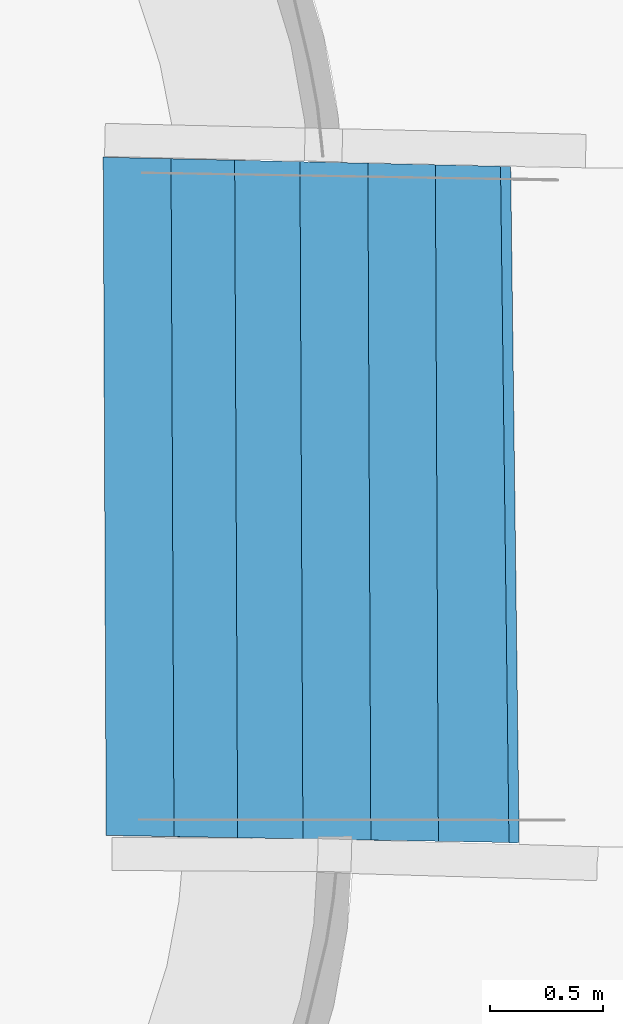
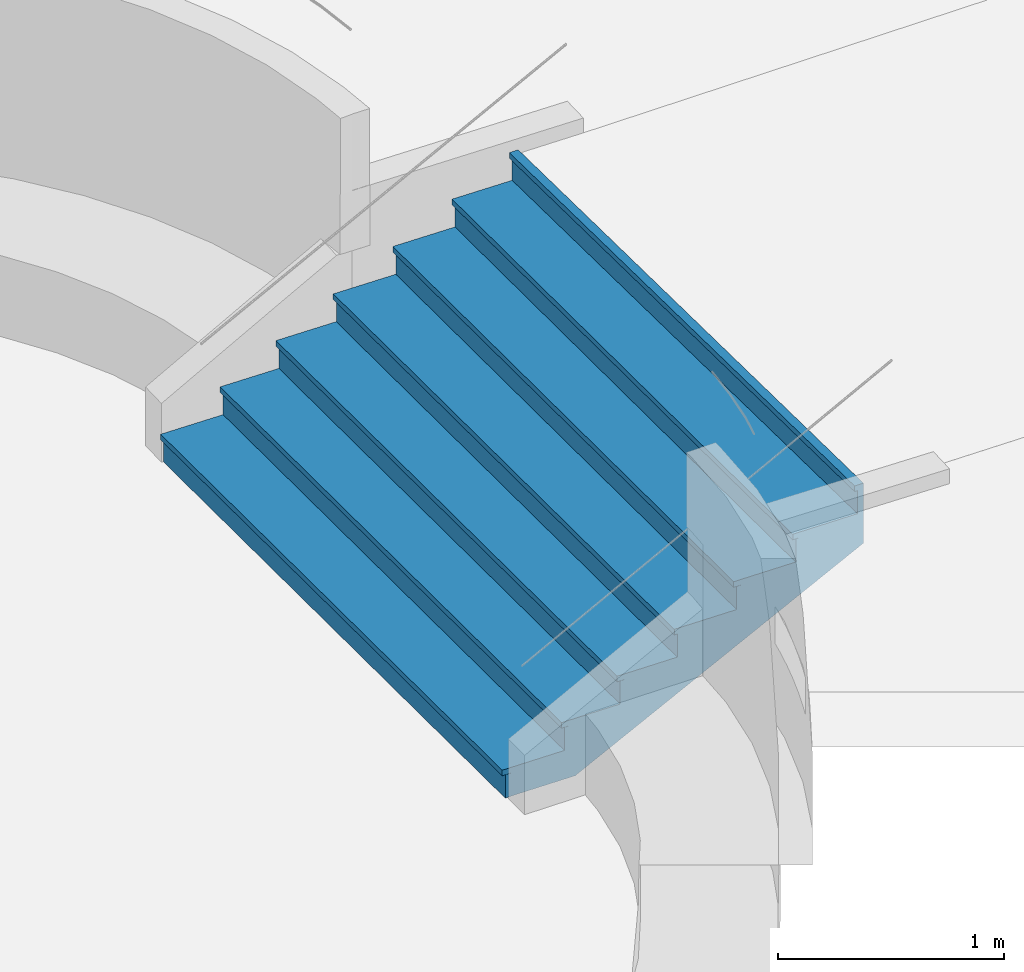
# One storey, part 114 of 133: 1 stair flight, 1 element without a shape of its own.
"""IFC2X3 building model written with IfcOpenShell, lengths in centimetres."""

from ifc_helpers import new_model, entity, si_unit, converted_unit, direction, frame, origin, origin_with_axes, place, context, subcontext, project, spatial, faceted_brep, material, element, aggregate, save


model = new_model("IFC2X3")

# Units and contexts
model_context = context("Model", 3, precision=0.0001, world=origin(), true_north=direction((0.225632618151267, 0.974212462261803, 0.0)))
body_context = subcontext(model_context, "Body", "Model", "MODEL_VIEW")
ifc_project = project(units=[si_unit("LENGTHUNIT", "METRE", prefix="CENTI"), si_unit("AREAUNIT", "SQUARE_METRE", prefix="CENTI"), si_unit("VOLUMEUNIT", "CUBIC_METRE", prefix="CENTI"), converted_unit("PLANEANGLEUNIT", "DEGREE", entity("IfcRatioMeasure", 0.0174532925), si_unit("PLANEANGLEUNIT", "RADIAN"), dimensions=[0, 0, 0, 0, 0, 0, 0])], contexts=[model_context])

# Site, building, storey
site_placement = place(None, origin_with_axes())
site = spatial("IfcSite", under=ifc_project, at=site_placement, Name="Default Site", CompositionType="ELEMENT")
building_placement = place(site_placement, origin_with_axes())
building = spatial("IfcBuilding", under=site, at=building_placement, Name="Default Building", CompositionType="ELEMENT")
storey_placement = place(building_placement, frame((0.0, 0.0, -291.400371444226), z_axis=(0.0, 0.0, 1.0), x_axis=(1.0, 0.0, 0.0)))
storey = spatial("IfcBuildingStorey", under=building, at=storey_placement, Name="Rez-de-Jardin", CompositionType="ELEMENT", Elevation=-291.400371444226)

# Stair, stair flight
stair_placement = place(storey_placement, frame((1561.36545780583, -1509.4975115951, 0.0), z_axis=(0.0, 0.0, 1.0), x_axis=(1.0, 0.0, 0.0)))
stair = element("IfcStair", 1, at=stair_placement, inside=storey, Name="Escalier 294723", ShapeType="NOTDEFINED")
ifc_material = material(Name="Gris béton")
stair_flight_placement = place(stair_placement, frame((-0.658746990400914, 149.998533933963, 12.5156506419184), z_axis=(0.0, 0.0, 1.0), x_axis=(0.999990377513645, 0.00438689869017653, 0.0)))
stair_flight = element("IfcStairFlight", 2, at=stair_flight_placement, material=ifc_material, Name="4294967291", context=body_context, shape_type="Brep", body=[
    faceted_brep([(-3.00000216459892, 1.77635683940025e-13, -12.515640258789), (0.0, 0.0, -12.515640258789), (0.00143133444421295, -300.000032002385, -12.515640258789), (-2.99857083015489, -300.000032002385, -12.515640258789), (0.0, 0.0, 4.44089209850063e-14), (-3.00000216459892, 1.77635683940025e-13, 4.44089209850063e-14), (-2.99857083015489, -300.000032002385, 4.44089209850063e-14), (0.00143133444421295, -300.000032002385, 4.44089209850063e-14), (-2.99857081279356, -300.000032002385, -12.515640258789), (-3.00000218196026, 9.4801782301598e-14, 4.44089209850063e-14), (-3.00000216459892, 6.27009536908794e-10, -12.515640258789), (-1.31009765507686e-19, -6.26831901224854e-10, 4.44089209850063e-14), (-1.7361153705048e-08, -8.28330534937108e-14, -12.515640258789), (0.00143135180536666, -300.000032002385, 4.44089209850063e-14), (0.00143133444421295, -300.000032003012, -12.515640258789), (-2.99857083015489, -300.000032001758, 4.44089209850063e-14)], [[[0, 1, 2]], [[2, 3, 0]], [[4, 5, 6]], [[6, 7, 4]], [[5, 0, 8]], [[3, 6, 9]], [[4, 1, 10]], [[0, 5, 11]], [[7, 2, 12]], [[1, 4, 13]], [[6, 3, 14]], [[2, 7, 15]]]),
    faceted_brep([(26.9999479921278, -0.820644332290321, 2.9999971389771), (29.9999505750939, -0.820548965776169, 2.9999971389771), (30.0014172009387, -300.660362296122, 2.9999971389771), (27.0014150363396, -300.660362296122, 2.9999971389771), (29.9999505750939, -0.820548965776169, 15.5156612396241), (26.9999479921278, -0.820644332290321, 15.5156612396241), (27.0014150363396, -300.660362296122, 15.5156612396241), (30.0014172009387, -300.660362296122, 15.5156612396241), (27.0014150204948, -300.660362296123, 2.9999971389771), (26.9999480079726, -0.820644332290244, 15.5156612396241), (26.9999479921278, -0.82064433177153, 2.9999971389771), (29.999950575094, -0.82054896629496, 15.5156612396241), (29.9999505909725, -0.820548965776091, 2.9999971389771), (30.0014171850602, -300.660362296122, 15.5156612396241), (30.0014172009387, -300.660362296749, 2.9999971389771), (27.0014150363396, -300.660362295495, 15.5156612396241)], [[[0, 1, 2]], [[2, 3, 0]], [[4, 5, 6]], [[6, 7, 4]], [[5, 0, 8]], [[3, 6, 9]], [[4, 1, 10]], [[0, 5, 11]], [[7, 2, 12]], [[1, 4, 13]], [[6, 3, 14]], [[2, 7, 15]]]),
    faceted_brep([(55.1420597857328, -1.59041341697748, 18.5156583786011), (58.1421573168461, -1.59041383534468, 18.5156583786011), (58.1435211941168, -301.27973545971, 18.5156583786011), (55.1436143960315, -301.279735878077, 18.5156583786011), (58.1421573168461, -1.59041383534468, 31.0312986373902), (55.1420597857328, -1.59041341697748, 31.0312986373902), (55.1436143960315, -301.279735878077, 31.0312986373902), (58.1435211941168, -301.27973545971, 31.0312986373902), (55.1436144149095, -301.279735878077, 18.5156583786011), (55.1420597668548, -1.59041341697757, 31.0312986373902), (55.1420597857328, -1.59041341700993, 18.5156583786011), (58.1421573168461, -1.59041383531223, 31.0312986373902), (58.1421573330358, -1.59041383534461, 18.5156583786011), (58.1435211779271, -301.27973545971, 31.0312986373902), (58.1435211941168, -301.279735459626, 18.5156583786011), (55.1436143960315, -301.279735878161, 31.0312986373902)], [[[0, 1, 2]], [[2, 3, 0]], [[4, 5, 6]], [[6, 7, 4]], [[5, 0, 8]], [[3, 6, 9]], [[4, 1, 10]], [[0, 5, 11]], [[7, 2, 12]], [[1, 4, 13]], [[6, 3, 14]], [[2, 7, 15]]]),
    faceted_brep([(84.0228061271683, -2.38039841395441, 34.0313196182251), (87.0229036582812, -2.3803988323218, 34.0313196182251), (87.0243718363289, -301.915510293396, 34.0313196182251), (84.024274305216, -301.915509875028, 34.0313196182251), (87.0229036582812, -2.3803988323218, 46.5469598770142), (84.0228061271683, -2.38039841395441, 46.5469598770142), (84.024274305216, -301.915509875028, 46.5469598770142), (87.0243718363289, -301.915510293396, 46.5469598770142), (84.0242743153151, -301.915509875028, 34.0313196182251), (84.0228061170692, -2.38039841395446, 46.5469598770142), (84.0228061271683, -2.38039841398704, 34.0313196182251), (87.0229036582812, -2.38039883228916, 46.5469598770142), (87.0229036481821, -2.38039883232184, 34.0313196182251), (87.024371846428, -301.915510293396, 46.5469598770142), (87.0243718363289, -301.915510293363, 34.0313196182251), (84.024274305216, -301.915509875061, 46.5469598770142)], [[[0, 1, 2]], [[2, 3, 0]], [[4, 5, 6]], [[6, 7, 4]], [[5, 0, 8]], [[3, 6, 9]], [[4, 1, 10]], [[0, 5, 11]], [[7, 2, 12]], [[1, 4, 13]], [[6, 3, 14]], [[2, 7, 15]]]),
    faceted_brep([(114.053556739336, -3.20184544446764, 49.5469570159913), (117.053463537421, -3.20184502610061, 49.5469570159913), (117.055063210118, -302.576547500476, 49.5469570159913), (114.054965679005, -302.576547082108, 49.5469570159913), (117.053463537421, -3.20184502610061, 62.0626211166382), (114.053556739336, -3.20184544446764, 62.0626211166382), (114.054965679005, -302.576547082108, 62.0626211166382), (117.055063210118, -302.576547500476, 62.0626211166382), (114.054965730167, -302.576547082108, 49.5469570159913), (114.053556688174, -3.20184544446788, 62.0626211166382), (114.053556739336, -3.20184544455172, 49.5469570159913), (117.053463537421, -3.20184502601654, 62.0626211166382), (117.053463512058, -3.20184502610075, 49.5469570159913), (117.055063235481, -302.576547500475, 62.0626211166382), (117.055063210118, -302.576547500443, 49.5469570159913), (114.054965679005, -302.576547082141, 62.0626211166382)], [[[0, 1, 2]], [[2, 3, 0]], [[4, 5, 6]], [[6, 7, 4]], [[5, 0, 8]], [[3, 6, 9]], [[4, 1, 10]], [[0, 5, 11]], [[7, 2, 12]], [[1, 4, 13]], [[6, 3, 14]], [[2, 7, 15]]]),
    faceted_brep([(143.914762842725, -4.01863859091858, 65.0626182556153), (146.91466964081, -4.01863817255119, 65.0626182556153), (146.916206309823, -303.233789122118, 65.0626182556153), (143.916107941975, -303.233979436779, 65.0626182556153), (146.91466964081, -4.01863817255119, 77.5782585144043), (143.914762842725, -4.01863859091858, 77.5782585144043), (143.916107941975, -303.233979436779, 77.5782585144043), (146.916206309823, -303.233789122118, 77.5782585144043), (143.916107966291, -303.233979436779, 65.0626182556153), (143.914762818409, -4.01863859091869, 77.5782585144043), (143.914762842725, -4.0186385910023, 65.0626182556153), (146.91466964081, -4.01863817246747, 77.5782585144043), (146.914669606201, -4.01863817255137, 65.0626182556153), (146.916206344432, -303.233789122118, 77.5782585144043), (146.916206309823, -303.233789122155, 65.0626182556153), (143.916107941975, -303.233979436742, 77.5782585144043)], [[[0, 1, 2]], [[2, 3, 0]], [[4, 5, 6]], [[6, 7, 4]], [[5, 0, 8]], [[3, 6, 9]], [[4, 1, 10]], [[0, 5, 11]], [[7, 2, 12]], [[1, 4, 13]], [[6, 3, 14]], [[2, 7, 15]]]),
    faceted_brep([(172.716637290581, -4.83087988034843, 80.5782675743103), (175.716460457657, -4.80646479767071, 80.5782675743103), (178.153953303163, -303.921484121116, 80.5782675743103), (175.154130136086, -303.945899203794, 80.5782675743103), (175.716460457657, -4.80646479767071, 93.0939197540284), (172.716637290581, -4.83087988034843, 93.0939197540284), (175.154130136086, -303.945899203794, 93.0939197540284), (178.153953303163, -303.921484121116, 93.0939197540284), (175.154130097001, -303.945899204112, 80.5782675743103), (172.716637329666, -4.83087988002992, 93.0939197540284), (172.716637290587, -4.83087988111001, 80.5782675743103), (175.716460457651, -4.80646479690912, 93.0939197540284), (175.716460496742, -4.8064647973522, 80.5782675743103), (178.153953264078, -303.921484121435, 93.0939197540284), (178.153953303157, -303.921484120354, 80.5782675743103), (175.154130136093, -303.945899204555, 93.0939197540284)], [[[0, 1, 2]], [[2, 3, 0]], [[4, 5, 6]], [[6, 7, 4]], [[5, 0, 8]], [[3, 6, 9]], [[4, 1, 10]], [[0, 5, 11]], [[7, 2, 12]], [[1, 4, 13]], [[6, 3, 14]], [[2, 7, 15]]]),
    faceted_brep([(0.00143133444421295, -300.000032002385, -12.515640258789), (0.00143133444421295, -300.000032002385, 4.44089209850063e-14), (-1.7361153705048e-08, -8.28330534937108e-14, 4.44089209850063e-14), (0.0, 0.0, 4.44089209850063e-14), (0.0, 0.0, -12.515640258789), (0.00143135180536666, -300.000032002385, -12.515640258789), (30.0014172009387, -300.660362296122, 4.44089209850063e-14), (30.0014172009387, -300.660362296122, 15.5156612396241), (29.9999505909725, -0.820548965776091, 15.5156612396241), (29.9999505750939, -0.820548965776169, 15.5156612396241), (29.9999505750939, -0.820548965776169, 4.44089209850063e-14), (30.0014171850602, -300.660362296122, 4.44089209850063e-14), (58.1435211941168, -301.27973545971, 15.5156612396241), (58.1435211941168, -301.27973545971, 31.0312986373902), (58.1421573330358, -1.59041383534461, 31.0312986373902), (58.1421573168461, -1.59041383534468, 31.0312986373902), (58.1421573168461, -1.59041383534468, 15.5156612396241), (58.1435211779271, -301.27973545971, 15.5156612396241), (87.0243718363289, -301.915510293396, 31.0312986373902), (87.0243718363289, -301.915510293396, 46.5469598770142), (87.0229036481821, -2.38039883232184, 46.5469598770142), (87.0229036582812, -2.3803988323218, 46.5469598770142), (87.0229036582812, -2.3803988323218, 31.0312986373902), (87.024371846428, -301.915510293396, 31.0312986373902), (117.055063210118, -302.576547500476, 46.5469598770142), (117.055063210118, -302.576547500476, 62.0626211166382), (117.053463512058, -3.20184502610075, 62.0626211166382), (117.053463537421, -3.20184502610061, 62.0626211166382), (117.053463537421, -3.20184502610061, 46.5469598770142), (117.055063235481, -302.576547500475, 46.5469598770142), (146.916206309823, -303.233789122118, 62.0626211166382), (146.916206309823, -303.233789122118, 77.5782585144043), (146.914669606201, -4.01863817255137, 77.5782585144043), (146.91466964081, -4.01863817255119, 77.5782585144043), (146.91466964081, -4.01863817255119, 62.0626211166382), (146.916206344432, -303.233789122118, 62.0626211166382), (178.153953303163, -303.921484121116, 77.5782585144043), (175.716460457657, -4.80646479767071, 77.5782585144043), (178.153953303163, -303.921484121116, 63.6298418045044), (175.716460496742, -4.8064647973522, 63.6298418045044), (175.716460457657, -4.80646479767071, 63.6298418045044), (178.153953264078, -303.921484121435, 77.5782585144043), (31.9904303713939, -0.875057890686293, -12.515640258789), (32.4354592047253, -300.713956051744, -12.515640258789), (30.001417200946, -300.660362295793, 4.39711986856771e-14), (0.0014313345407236, -300.000031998, -12.515640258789), (32.4354592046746, -300.713956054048, -12.515640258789), (32.4354592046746, -300.713956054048, 15.5156612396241), (30.0014172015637, -300.660362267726, 4.44089209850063e-14), (58.1435211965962, -301.279735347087, 15.5156612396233), (32.4354592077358, -300.713955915, -12.51564025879), (178.153953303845, -303.92148409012, 63.6298418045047), (87.0243718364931, -301.915510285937, 31.0312986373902), (178.153953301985, -303.921484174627, 63.6298418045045), (117.05506320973, -302.57654751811, 46.5469598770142), (178.153953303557, -303.92148410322, 63.6298418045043), (146.916206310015, -303.233789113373, 62.0626211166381), (178.153953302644, -303.921484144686, 63.6298418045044), (178.153953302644, -303.921484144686, 77.5782585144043), (146.916206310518, -303.233789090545, 62.0626211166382), (117.055063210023, -302.576547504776, 46.5469598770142), (87.0243718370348, -301.91551026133, 31.0312986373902), (32.4354592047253, -300.713956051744, 15.5156612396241), (58.1435211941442, -301.279735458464, 15.5156612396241), (31.9904303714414, -0.87505788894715, -12.515640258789), (-4.52407678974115e-10, -1.65404001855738e-08, 1.31585443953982e-13), (29.9999505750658, -0.820548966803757, 4.98248446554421e-14), (29.9999505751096, -0.820548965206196, 4.44089209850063e-14), (31.9904303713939, -0.875057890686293, 15.5156612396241), (29.9999505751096, -0.820548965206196, 15.5156612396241), (58.142157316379, -1.59041385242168, 15.515661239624), (175.71646045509, -4.80646489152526, 63.6298418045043), (31.9904303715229, -0.875057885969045, -12.515640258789), (31.9904303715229, -0.875057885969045, 15.5156612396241), (58.1421573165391, -1.59041384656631, 15.5156612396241), (87.0229036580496, -2.38039884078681, 31.0312986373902), (58.1421573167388, -1.59041383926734, 15.5156612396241), (58.1421573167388, -1.59041383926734, 31.0312986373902), (87.0229036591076, -2.38039880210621, 31.0312986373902), (117.053463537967, -3.20184500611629, 46.5469598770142), (87.0229036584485, -2.38039882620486, 31.0312986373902), (87.0229036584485, -2.38039882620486, 46.5469598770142), (117.053463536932, -3.20184504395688, 46.5469598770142), (146.91466964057, -4.01863818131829, 62.0626211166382), (117.053463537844, -3.20184501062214, 46.5469598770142), (117.053463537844, -3.20184501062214, 62.0626211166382), (146.914669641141, -4.01863816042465, 62.0626211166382), (146.914669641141, -4.01863816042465, 77.5782585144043), (178.153953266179, -303.921484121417, 63.6298418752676), (32.4354595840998, -300.713956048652, -12.5156409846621), (32.4354581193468, -300.713956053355, -12.5156382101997), (31.9904292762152, -0.875057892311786, -12.5156381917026)], [[[0, 1, 2]], [[3, 4, 5]], [[6, 7, 8]], [[9, 10, 11]], [[12, 13, 14]], [[15, 16, 17]], [[18, 19, 20]], [[21, 22, 23]], [[24, 25, 26]], [[27, 28, 29]], [[30, 31, 32]], [[33, 34, 35]], [[1, 6, 10]], [[10, 3, 1]], [[7, 12, 16]], [[16, 9, 7]], [[13, 18, 22]], [[22, 15, 13]], [[19, 24, 28]], [[28, 21, 19]], [[25, 30, 34]], [[34, 27, 25]], [[31, 36, 37]], [[37, 33, 31]], [[36, 38, 39]], [[40, 37, 41]], [[42, 43, 0]], [[0, 4, 42]], [[43, 44, 45]], [[6, 46, 47]], [[6, 47, 7]], [[1, 0, 48]], [[38, 49, 50]], [[12, 51, 52]], [[18, 53, 54]], [[24, 55, 56]], [[30, 57, 31]], [[31, 57, 58]], [[25, 24, 59]], [[19, 18, 60]], [[13, 12, 61]], [[62, 43, 63]], [[3, 64, 4]], [[42, 65, 66]], [[42, 67, 68]], [[68, 67, 69]], [[42, 70, 71]], [[16, 72, 73]], [[40, 74, 75]], [[22, 76, 77]], [[40, 78, 79]], [[28, 80, 81]], [[40, 82, 83]], [[34, 84, 85]], [[40, 86, 87]], [[40, 87, 37]], [[40, 88, 89]], [[40, 90, 91]]]),
    faceted_brep([(-4.49856637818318, -299.900944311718, 2.9999971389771), (30.0014172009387, -300.660362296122, 2.9999971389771), (29.9999505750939, -0.820548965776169, 2.9999971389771), (-4.49998765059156, 0.123120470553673, 2.9999971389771), (29.9999505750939, -0.820548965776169, 4.44089209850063e-14), (30.0014172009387, -300.660362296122, 4.44089209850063e-14), (-4.49856637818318, -299.900944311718, 4.44089209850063e-14), (-4.49998765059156, 0.123120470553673, 4.44089209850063e-14), (-4.49998764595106, 0.123120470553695, 2.9999971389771), (-4.49856638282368, -299.900944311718, 4.44089209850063e-14), (-4.49856637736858, -299.900944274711, 2.9999971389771), (30.0014172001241, -300.660362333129, 4.44089209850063e-14), (30.0014171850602, -300.660362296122, 2.9999971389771), (29.9999505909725, -0.820548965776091, 4.44089209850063e-14), (29.9999505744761, -0.820548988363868, 2.9999971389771), (-4.49998764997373, 0.123120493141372, 4.44089209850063e-14)], [[[0, 1, 2]], [[2, 3, 0]], [[4, 5, 6]], [[6, 7, 4]], [[6, 0, 8]], [[3, 7, 9]], [[5, 1, 10]], [[0, 6, 11]], [[4, 2, 12]], [[1, 5, 13]], [[7, 3, 14]], [[2, 4, 15]]]),
    faceted_brep([(25.5014194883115, -300.561274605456, 18.5156583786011), (58.1435211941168, -301.27973545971, 18.5156583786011), (58.1421573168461, -1.59041383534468, 18.5156583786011), (25.4999625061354, -0.697523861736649, 18.5156583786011), (58.1421573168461, -1.59041383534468, 15.5156612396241), (58.1435211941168, -301.27973545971, 15.5156612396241), (25.5014194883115, -300.561274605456, 15.5156612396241), (25.4999625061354, -0.697523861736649, 15.5156612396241), (25.4999625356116, -0.697523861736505, 18.5156583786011), (25.5014194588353, -300.561274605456, 15.5156612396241), (25.5014194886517, -300.561274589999, 18.5156583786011), (58.1435211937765, -301.279735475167, 15.5156612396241), (58.1435211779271, -301.27973545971, 18.5156583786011), (58.1421573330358, -1.59041383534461, 15.5156612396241), (58.1421573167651, -1.59041383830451, 18.5156583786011), (25.4999625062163, -0.697523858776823, 15.5156612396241)], [[[0, 1, 2]], [[2, 3, 0]], [[4, 5, 6]], [[6, 7, 4]], [[6, 0, 8]], [[3, 7, 9]], [[5, 1, 10]], [[0, 6, 11]], [[4, 2, 12]], [[1, 5, 13]], [[7, 3, 14]], [[2, 4, 15]]]),
    faceted_brep([(53.643522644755, -301.180838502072, 34.0313196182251), (87.0243718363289, -301.915510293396, 34.0313196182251), (87.0229036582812, -2.3803988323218, 34.0313196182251), (53.6420742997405, -1.4672929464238, 34.0313196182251), (87.0229036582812, -2.3803988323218, 31.0312986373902), (87.0243718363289, -301.915510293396, 31.0312986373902), (53.643522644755, -301.180838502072, 31.0312986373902), (53.6420742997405, -1.4672929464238, 31.0312986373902), (53.6420742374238, -1.4672929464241, 34.0313196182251), (53.6435227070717, -301.180838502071, 31.0312986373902), (53.6435226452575, -301.180838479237, 34.0313196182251), (87.0243718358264, -301.91551031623, 31.0312986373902), (87.024371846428, -301.915510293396, 34.0313196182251), (87.0229036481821, -2.38039883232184, 31.0312986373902), (87.0229036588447, -2.38039881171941, 34.0313196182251), (53.642074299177, -1.46729296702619, 31.0312986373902)], [[[0, 1, 2]], [[2, 3, 0]], [[4, 5, 6]], [[6, 7, 4]], [[6, 0, 8]], [[3, 7, 9]], [[5, 1, 10]], [[0, 6, 11]], [[4, 2, 12]], [[1, 5, 13]], [[7, 3, 14]], [[2, 4, 15]]]),
    faceted_brep([(82.5243741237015, -301.816422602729, 49.5469570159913), (117.055063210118, -302.576547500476, 49.5469570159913), (117.053463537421, -3.20184502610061, 49.5469570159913), (82.5228206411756, -2.25727794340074, 49.5469570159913), (117.053463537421, -3.20184502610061, 46.5469598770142), (117.055063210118, -302.576547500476, 46.5469598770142), (82.5243741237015, -301.816422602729, 46.5469598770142), (82.5228206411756, -2.25727794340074, 46.5469598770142), (82.5228205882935, -2.25727794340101, 49.5469570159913), (82.5243741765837, -301.816422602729, 46.5469598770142), (82.5243741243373, -301.816422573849, 49.5469570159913), (117.055063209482, -302.576547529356, 46.5469598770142), (117.055063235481, -302.576547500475, 49.5469570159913), (117.053463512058, -3.20184502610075, 46.5469598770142), (117.053463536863, -3.20184504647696, 49.5469570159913), (82.522820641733, -2.25727792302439, 46.5469598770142)], [[[0, 1, 2]], [[2, 3, 0]], [[4, 5, 6]], [[6, 7, 4]], [[6, 0, 8]], [[3, 7, 9]], [[5, 1, 10]], [[0, 6, 11]], [[4, 2, 12]], [[1, 5, 13]], [[7, 3, 14]], [[2, 4, 15]]]),
    faceted_brep([(112.555065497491, -302.477459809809, 65.0626182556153), (146.916206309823, -303.233789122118, 65.0626182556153), (146.91466964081, -4.01863817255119, 65.0626182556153), (112.553571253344, -3.07872497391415, 65.0626182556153), (146.91466964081, -4.01863817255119, 62.0626211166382), (146.916206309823, -303.233789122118, 62.0626211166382), (112.555065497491, -302.477459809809, 62.0626211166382), (112.553571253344, -3.07872497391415, 62.0626211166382), (112.553571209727, -3.07872497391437, 65.0626182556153), (112.555065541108, -302.477459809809, 62.0626211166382), (112.555065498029, -302.47745978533, 65.0626182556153), (146.916206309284, -303.233789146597, 62.0626211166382), (146.916206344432, -303.233789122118, 65.0626182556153), (146.914669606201, -4.01863817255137, 62.0626211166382), (146.914669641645, -4.0186381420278, 65.0626182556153), (112.553571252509, -3.07872500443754, 62.0626211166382)], [[[0, 1, 2]], [[2, 3, 0]], [[4, 5, 6]], [[6, 7, 4]], [[6, 0, 8]], [[3, 7, 9]], [[5, 1, 10]], [[0, 6, 11]], [[4, 2, 12]], [[1, 5, 13]], [[7, 3, 14]], [[2, 4, 15]]]),
    faceted_brep([(142.416207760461, -303.13489216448, 80.5782675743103), (178.153953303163, -303.921484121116, 80.5782675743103), (175.716460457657, -4.80646479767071, 80.5782675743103), (142.414777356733, -3.89551812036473, 80.5782675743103), (175.716460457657, -4.80646479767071, 77.5782585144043), (178.153953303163, -303.921484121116, 77.5782585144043), (142.416207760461, -303.13489216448, 77.5782585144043), (142.414777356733, -3.89551812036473, 77.5782585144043), (142.414777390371, -3.89551812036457, 80.5782675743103), (142.416207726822, -303.13489216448, 77.5782585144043), (142.416207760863, -303.134892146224, 80.5782675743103), (178.153953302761, -303.921484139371, 77.5782585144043), (178.153953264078, -303.921484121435, 80.5782675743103), (175.716460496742, -4.8064647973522, 77.5782585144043), (175.716460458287, -4.80646477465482, 80.5782675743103), (142.414777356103, -3.89551814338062, 77.5782585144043)], [[[0, 1, 2]], [[2, 3, 0]], [[4, 5, 6]], [[6, 7, 4]], [[6, 0, 8]], [[3, 7, 9]], [[5, 1, 10]], [[0, 6, 11]], [[4, 2, 12]], [[1, 5, 13]], [[7, 3, 14]], [[2, 4, 15]]]),
    faceted_brep([(173.654122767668, -303.95820169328, 96.0939288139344), (178.153953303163, -303.921484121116, 96.0939288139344), (175.716460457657, -4.80646479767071, 96.0939288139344), (171.216629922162, -4.84318236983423, 96.0939288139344), (178.153953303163, -303.921484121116, 93.0939197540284), (173.654122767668, -303.95820169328, 93.0939197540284), (171.216629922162, -4.84318236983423, 93.0939197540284), (175.716460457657, -4.80646479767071, 93.0939197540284), (171.216629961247, -4.84318236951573, 96.0939288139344), (173.654122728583, -303.958201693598, 93.0939197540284), (173.654122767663, -303.958201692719, 96.0939288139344), (178.153953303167, -303.921484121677, 93.0939197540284), (178.153953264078, -303.921484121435, 96.0939288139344), (175.716460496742, -4.8064647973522, 93.0939197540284), (175.716460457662, -4.80646479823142, 96.0939288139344), (171.216629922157, -4.84318236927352, 93.0939197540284)], [[[0, 1, 2]], [[2, 3, 0]], [[4, 5, 6]], [[6, 7, 4]], [[5, 0, 8]], [[3, 6, 9]], [[4, 1, 10]], [[0, 5, 11]], [[7, 2, 12]], [[1, 4, 13]], [[6, 3, 14]], [[2, 7, 15]]]),
])
aggregate(stair, [stair_flight])

save(model, "model.ifc")
